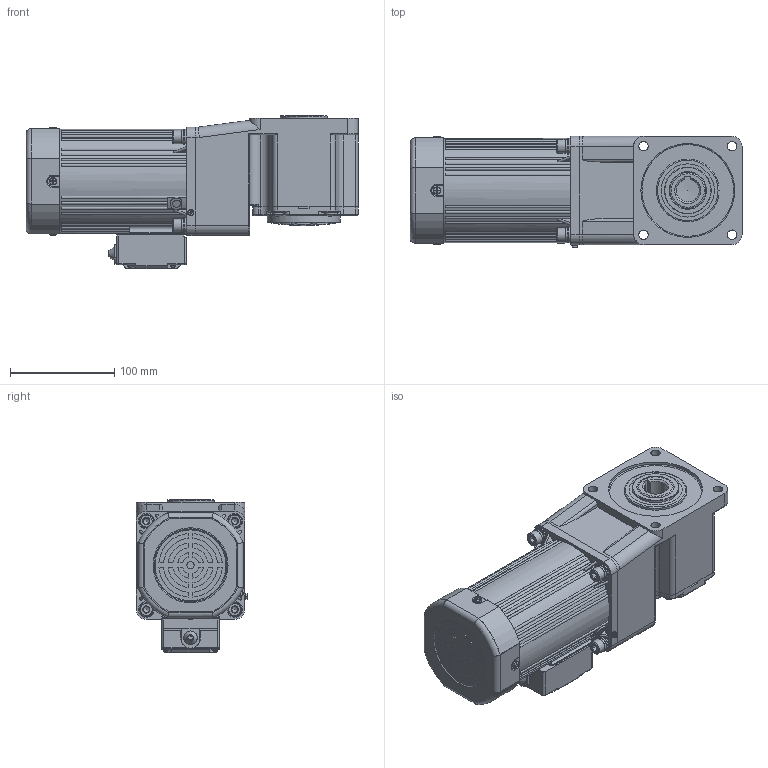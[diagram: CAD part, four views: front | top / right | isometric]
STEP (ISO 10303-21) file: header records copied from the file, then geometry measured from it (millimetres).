
FILE_DESCRIPTION(/* description */ (''),/* implementation_level */ '2;1');
FILE_NAME(/* name */ '100+直角中空-风叶-160-250W 新版标准接线盒.stp',/* time_stamp */ '2025-11-26T09:22:14+08:00',/* author */ (''),/* organization */ (''),/* preprocessor_version */ 'ST-DEVELOPER v18.102',/* originating_system */ 'SIEMENS PLM Software NX 2027',/* authorisation */ '');
FILE_SCHEMA (('AUTOMOTIVE_DESIGN { 1 0 10303 214 3 1 1 1 }'));
Products named in the file (1): 100+直角中空-风叶-160-250W 新版标准接线盒_
stp
Bounding box: 318.5 x 106.83 x 147.5 mm (x, y, z)
Volume: 3063616.8 mm3; surface area: 443849.9 mm2
Topology: 25 solids, 25 shells, 2510 faces, 6517 edges, 4168 vertices
Faces by surface type: plane 1120, cylinder 814, bspline 221, torus 167, cone 142, sphere 46
Full cylindrical faces by diameter (mm): 2.2 x2, 2.6 x2, 2.7 x1, 2.9 x4, 3 x17, 3.2 x2, 3.3 x2, 3.5 x8, 3.6 x4, 4 x4, 4.2 x1, 4.55 x2, 4.8 x1, 5.1 x2, 5.15 x2, 5.6 x4, 6 x12, 6.8 x12, 7 x3, 7.5 x2, 7.76 x4, 8 x1, 8.4 x4, 9 x13, 9.3 x1, 9.5 x4, 10 x2, 13 x4, 14 x8, 15 x5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
Entity records: 77087 total; most frequent: CARTESIAN_POINT 18668, ORIENTED_EDGE 11996, DIRECTION 11716, EDGE_CURVE 5998, AXIS2_PLACEMENT_3D 4512, VERTEX_POINT 4027, EDGE_LOOP 3084, LINE 2692
